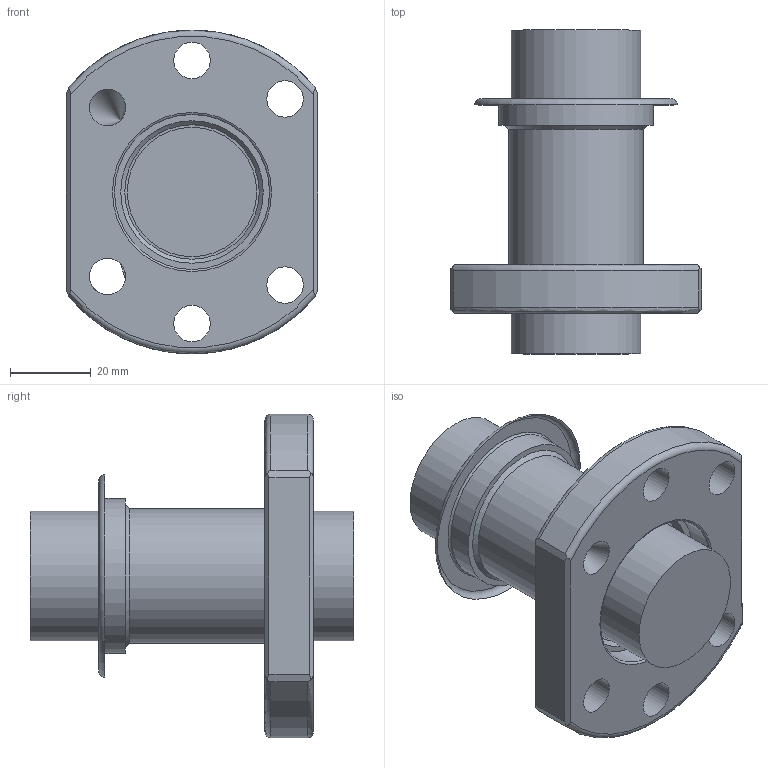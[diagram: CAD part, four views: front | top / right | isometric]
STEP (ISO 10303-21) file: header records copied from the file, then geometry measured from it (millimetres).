
FILE_DESCRIPTION(/* description */ (''),/* implementation_level */ '2;1');
FILE_NAME(/* name */ '3205.prt.step',/* time_stamp */ '2008-12-05T16:32:01+08:00',/* author */ (''),/* organization */ (''),/* preprocessor_version */ 'ST-DEVELOPER v11',/* originating_system */ 'SIEMENS UGS NX 6.0',/* authorisation */ '');
FILE_SCHEMA (('AUTOMOTIVE_DESIGN { 1 0 10303 214 1 1 1 1 }'));
Length unit declared in the file: millimetre
Products named in the file (1): 3205
Bounding box: 62 x 80 x 80 mm (x, y, z)
Volume: 91275.7 mm3; surface area: 27895.8 mm2
Topology: 2 solids, 2 shells, 40 faces, 100 edges, 67 vertices
Faces by surface type: plane 17, cylinder 14, torus 7, cone 2
Full cylindrical faces by diameter (mm): 9 x6, 31.95 x1, 33.2 x1, 38.3 x2, 50 x1
Entity records: 1308 total; most frequent: CARTESIAN_POINT 414, DIRECTION 176, ORIENTED_EDGE 152, EDGE_CURVE 76, AXIS2_PLACEMENT_3D 76, EDGE_LOOP 70, VERTEX_POINT 58, FACE_BOUND 52
